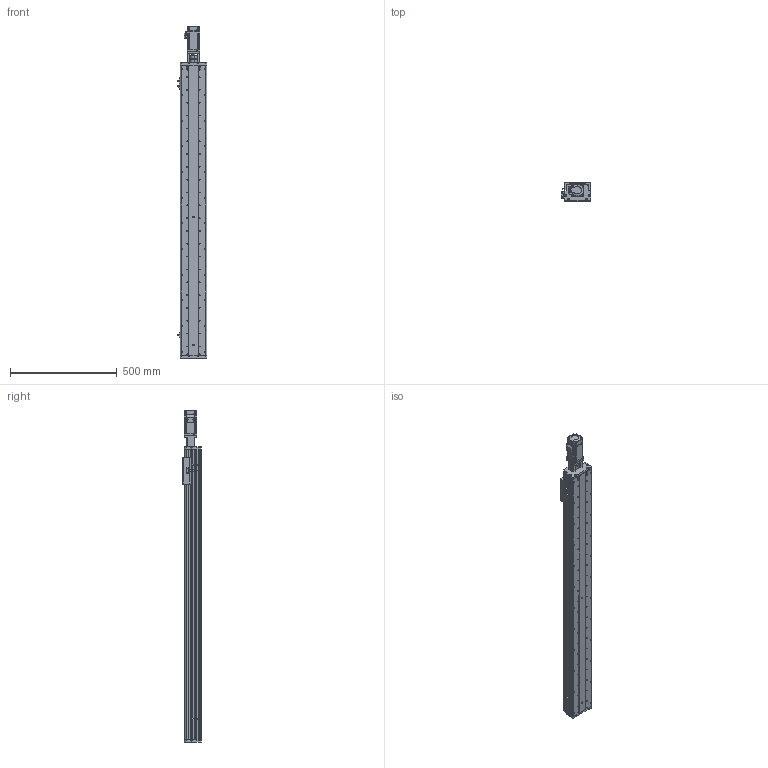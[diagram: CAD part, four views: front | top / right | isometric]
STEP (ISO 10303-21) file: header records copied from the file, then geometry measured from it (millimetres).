
FILE_DESCRIPTION (( 'STEP AP214' ), '1' );
FILE_NAME ('KSD125S-S1150-MT-CM.STEP', '2017-08-07T06:54:43', ( '微软用户' ), ( '微软中国' ), 'SwSTEP 2.0', 'SolidWorks 2014', '' );
FILE_SCHEMA (( 'AUTOMOTIVE_DESIGN' ));
Length unit declared in the file: millimetre
Products named in the file (13): 拸萇儂釱滅袉菜; 覜茼え68遵圉猾敕; U倰嫖萇假蚾璃; U倰嫖萇EEㄜSX672; KSD125S-1150俴最佪裝滅鳥裔; KSD125S-1150俴最佪裝菁啣; ヶ傷啣-125遵耀郪; CS-34X32-10X14; 125-帣傷啣1; KSD125S-S1150-MT-CM; KSD125-賑雄釱1; MHMD042G1CA_2_03; 100遵鎮湛假蚾啣1 
Assembly tree (16 placements, depth 2):
  KSD125S-S1150-MT-CM
    125-帣傷啣1
    CS-34X32-10X14
    ヶ傷啣-125遵耀郪
    U倰嫖萇EEㄜSX672  x3
    U倰嫖萇假蚾璃  x3
    覜茼え68遵圉猾敕
    拸萇儂釱滅袉菜
    100遵鎮湛假蚾啣1 
    MHMD042G1CA_2_03
    KSD125-賑雄釱1
    KSD125S-1150俴最佪裝菁啣
    KSD125S-1150俴最佪裝滅鳥裔
Bounding box: 138.7 x 86 x 1553.5 mm (x, y, z)
Volume: 4303223.3 mm3; surface area: 1407330.9 mm2
Topology: 15 solids, 18 shells, 1622 faces, 4688 edges, 3087 vertices
Faces by surface type: cylinder 858, plane 651, cone 91, bspline 22
Entity records: 57697 total; most frequent: CARTESIAN_POINT 12048, DIRECTION 8306, ORIENTED_EDGE 7884, EDGE_CURVE 4020, AXIS2_PLACEMENT_3D 3095, VERTEX_POINT 2679, LINE 2116, VECTOR 2116
